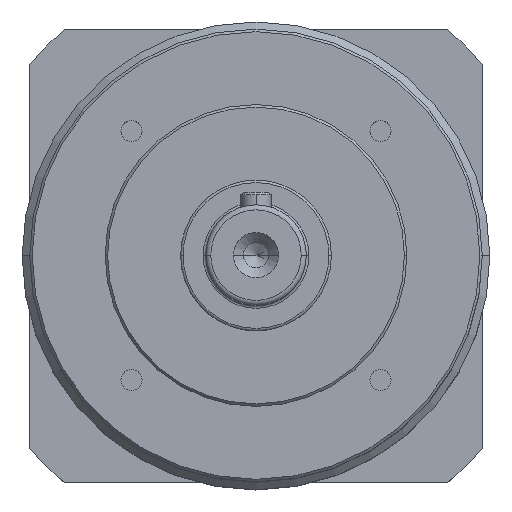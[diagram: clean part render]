
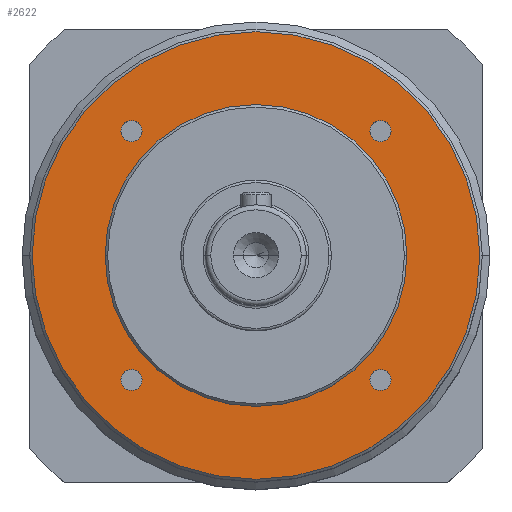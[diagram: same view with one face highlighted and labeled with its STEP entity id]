
A CAD part, top view. The second image highlights one B-rep face of the part: STEP entity #2622.
In plain terms, the highlighted planar face has unit normal (0, 0, 1).
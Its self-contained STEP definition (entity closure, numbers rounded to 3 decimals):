
#16 = EDGE_CURVE ( 'NONE', #438, #1082, #2848, .T. ) ;
#22 = VERTEX_POINT ( 'NONE', #2194 ) ;
#51 = CARTESIAN_POINT ( 'NONE',  ( -26.849, -24.749, 24.5 ) ) ;
#72 = CIRCLE ( 'NONE', #2682, 2.1 ) ;
#99 = AXIS2_PLACEMENT_3D ( 'NONE', #2843, #426, #485 ) ;
#131 = DIRECTION ( 'NONE',  ( 1., 0., 0. ) ) ;
#145 = DIRECTION ( 'NONE',  ( 0., 0., 1. ) ) ;
#157 = CARTESIAN_POINT ( 'NONE',  ( -22.649, -24.749, 24.5 ) ) ;
#179 = AXIS2_PLACEMENT_3D ( 'NONE', #1110, #858, #1069 ) ;
#207 = AXIS2_PLACEMENT_3D ( 'NONE', #915, #3078, #2099 ) ;
#227 = VERTEX_POINT ( 'NONE', #334 ) ;
#242 = CIRCLE ( 'NONE', #2226, 2.1 ) ;
#255 = EDGE_LOOP ( 'NONE', ( #1385, #2098 ) ) ;
#257 = EDGE_CURVE ( 'NONE', #1700, #1452, #3105, .T. ) ;
#273 = FACE_BOUND ( 'NONE', #570, .T. ) ;
#276 = CARTESIAN_POINT ( 'NONE',  ( 0., 0., 24.5 ) ) ;
#320 = EDGE_CURVE ( 'NONE', #587, #2873, #1015, .T. ) ;
#327 = DIRECTION ( 'NONE',  ( 1., 0., 0. ) ) ;
#334 = CARTESIAN_POINT ( 'NONE',  ( -22.649, 24.749, 24.5 ) ) ;
#387 = DIRECTION ( 'NONE',  ( 0., 0., 1. ) ) ;
#401 = EDGE_LOOP ( 'NONE', ( #2351, #2342 ) ) ;
#426 = DIRECTION ( 'NONE',  ( 0., 0., 1. ) ) ;
#438 = VERTEX_POINT ( 'NONE', #674 ) ;
#485 = DIRECTION ( 'NONE',  ( 1., 0., 0. ) ) ;
#521 = DIRECTION ( 'NONE',  ( 0., 0., 1. ) ) ;
#570 = EDGE_LOOP ( 'NONE', ( #1926, #1791 ) ) ;
#571 = AXIS2_PLACEMENT_3D ( 'NONE', #966, #1450, #730 ) ;
#574 = CARTESIAN_POINT ( 'NONE',  ( 24.749, 24.749, 24.5 ) ) ;
#587 = VERTEX_POINT ( 'NONE', #2730 ) ;
#600 = EDGE_LOOP ( 'NONE', ( #817, #2801 ) ) ;
#674 = CARTESIAN_POINT ( 'NONE',  ( 44.5, 0., 24.5 ) ) ;
#721 = DIRECTION ( 'NONE',  ( 0., 0., 1. ) ) ;
#730 = DIRECTION ( 'NONE',  ( 1., 0., 0. ) ) ;
#743 = CIRCLE ( 'NONE', #179, 2.1 ) ;
#745 = DIRECTION ( 'NONE',  ( 0., 0., 1. ) ) ;
#817 = ORIENTED_EDGE ( 'NONE', *, *, #2389, .F. ) ;
#838 = ORIENTED_EDGE ( 'NONE', *, *, #1584, .F. ) ;
#840 = FACE_BOUND ( 'NONE', #2681, .T. ) ;
#845 = DIRECTION ( 'NONE',  ( 0., 0., 1. ) ) ;
#858 = DIRECTION ( 'NONE',  ( 0., 0., 1. ) ) ;
#861 = AXIS2_PLACEMENT_3D ( 'NONE', #1856, #3068, #1604 ) ;
#877 = DIRECTION ( 'NONE',  ( 1., 0., 0. ) ) ;
#915 = CARTESIAN_POINT ( 'NONE',  ( 0., 0., 24.5 ) ) ;
#917 = DIRECTION ( 'NONE',  ( 0., 0., 1. ) ) ;
#962 = AXIS2_PLACEMENT_3D ( 'NONE', #2184, #721, #2430 ) ;
#966 = CARTESIAN_POINT ( 'NONE',  ( 0., 0., 24.5 ) ) ;
#988 = FACE_BOUND ( 'NONE', #600, .T. ) ;
#1015 = CIRCLE ( 'NONE', #207, 30. ) ;
#1056 = CARTESIAN_POINT ( 'NONE',  ( 22.649, 24.749, 24.5 ) ) ;
#1069 = DIRECTION ( 'NONE',  ( 1., 0., 0. ) ) ;
#1076 = EDGE_LOOP ( 'NONE', ( #2306, #838 ) ) ;
#1082 = VERTEX_POINT ( 'NONE', #2608 ) ;
#1094 = CARTESIAN_POINT ( 'NONE',  ( 26.849, 24.749, 24.5 ) ) ;
#1110 = CARTESIAN_POINT ( 'NONE',  ( 24.749, -24.749, 24.5 ) ) ;
#1163 = VERTEX_POINT ( 'NONE', #157 ) ;
#1184 = FACE_OUTER_BOUND ( 'NONE', #401, .T. ) ;
#1274 = EDGE_CURVE ( 'NONE', #2873, #587, #2507, .T. ) ;
#1321 = CARTESIAN_POINT ( 'NONE',  ( -30., 0., 24.5 ) ) ;
#1357 = EDGE_CURVE ( 'NONE', #2889, #2924, #2354, .T. ) ;
#1385 = ORIENTED_EDGE ( 'NONE', *, *, #2641, .F. ) ;
#1443 = ORIENTED_EDGE ( 'NONE', *, *, #320, .F. ) ;
#1450 = DIRECTION ( 'NONE',  ( 0., 0., 1. ) ) ;
#1452 = VERTEX_POINT ( 'NONE', #2004 ) ;
#1476 = EDGE_CURVE ( 'NONE', #1452, #1700, #743, .T. ) ;
#1518 = AXIS2_PLACEMENT_3D ( 'NONE', #2552, #845, #131 ) ;
#1567 = DIRECTION ( 'NONE',  ( 0., 0., 1. ) ) ;
#1584 = EDGE_CURVE ( 'NONE', #22, #227, #72, .T. ) ;
#1604 = DIRECTION ( 'NONE',  ( 1., 0., 0. ) ) ;
#1700 = VERTEX_POINT ( 'NONE', #1932 ) ;
#1726 = CIRCLE ( 'NONE', #861, 44.5 ) ;
#1743 = DIRECTION ( 'NONE',  ( 1., 0., 0. ) ) ;
#1791 = ORIENTED_EDGE ( 'NONE', *, *, #1476, .F. ) ;
#1821 = AXIS2_PLACEMENT_3D ( 'NONE', #276, #745, #1743 ) ;
#1856 = CARTESIAN_POINT ( 'NONE',  ( 0., 0., 24.5 ) ) ;
#1926 = ORIENTED_EDGE ( 'NONE', *, *, #257, .F. ) ;
#1932 = CARTESIAN_POINT ( 'NONE',  ( 26.849, -24.749, 24.5 ) ) ;
#1993 = CIRCLE ( 'NONE', #2877, 2.1 ) ;
#2004 = CARTESIAN_POINT ( 'NONE',  ( 22.649, -24.749, 24.5 ) ) ;
#2042 = ORIENTED_EDGE ( 'NONE', *, *, #1274, .F. ) ;
#2073 = CARTESIAN_POINT ( 'NONE',  ( 24.749, -24.749, 24.5 ) ) ;
#2076 = EDGE_CURVE ( 'NONE', #1082, #438, #1726, .T. ) ;
#2098 = ORIENTED_EDGE ( 'NONE', *, *, #2457, .F. ) ;
#2099 = DIRECTION ( 'NONE',  ( 1., 0., 0. ) ) ;
#2184 = CARTESIAN_POINT ( 'NONE',  ( 0., 0., 24.5 ) ) ;
#2194 = CARTESIAN_POINT ( 'NONE',  ( -26.849, 24.749, 24.5 ) ) ;
#2226 = AXIS2_PLACEMENT_3D ( 'NONE', #574, #1567, #2294 ) ;
#2229 = CARTESIAN_POINT ( 'NONE',  ( 24.749, 24.749, 24.5 ) ) ;
#2294 = DIRECTION ( 'NONE',  ( 1., 0., 0. ) ) ;
#2306 = ORIENTED_EDGE ( 'NONE', *, *, #2432, .F. ) ;
#2323 = DIRECTION ( 'NONE',  ( 1., 0., 0. ) ) ;
#2342 = ORIENTED_EDGE ( 'NONE', *, *, #16, .T. ) ;
#2351 = ORIENTED_EDGE ( 'NONE', *, *, #2076, .T. ) ;
#2354 = CIRCLE ( 'NONE', #2741, 2.1 ) ;
#2389 = EDGE_CURVE ( 'NONE', #2924, #2889, #242, .T. ) ;
#2430 = DIRECTION ( 'NONE',  ( 1., 0., 0. ) ) ;
#2432 = EDGE_CURVE ( 'NONE', #227, #22, #2482, .T. ) ;
#2457 = EDGE_CURVE ( 'NONE', #2831, #1163, #1993, .T. ) ;
#2482 = CIRCLE ( 'NONE', #1518, 2.1 ) ;
#2507 = CIRCLE ( 'NONE', #1821, 30. ) ;
#2544 = AXIS2_PLACEMENT_3D ( 'NONE', #2073, #145, #2323 ) ;
#2552 = CARTESIAN_POINT ( 'NONE',  ( -24.749, 24.749, 24.5 ) ) ;
#2575 = CARTESIAN_POINT ( 'NONE',  ( -24.749, -24.749, 24.5 ) ) ;
#2608 = CARTESIAN_POINT ( 'NONE',  ( -44.5, 0., 24.5 ) ) ;
#2615 = CARTESIAN_POINT ( 'NONE',  ( -24.749, 24.749, 24.5 ) ) ;
#2622 = ADVANCED_FACE ( 'NONE', ( #2637, #2711, #273, #988, #840, #1184 ), #3079, .T. ) ;
#2637 = FACE_BOUND ( 'NONE', #1076, .T. ) ;
#2641 = EDGE_CURVE ( 'NONE', #1163, #2831, #2927, .T. ) ;
#2681 = EDGE_LOOP ( 'NONE', ( #2042, #1443 ) ) ;
#2682 = AXIS2_PLACEMENT_3D ( 'NONE', #2615, #917, #877 ) ;
#2711 = FACE_BOUND ( 'NONE', #255, .T. ) ;
#2730 = CARTESIAN_POINT ( 'NONE',  ( 30., 0., 24.5 ) ) ;
#2741 = AXIS2_PLACEMENT_3D ( 'NONE', #2229, #521, #327 ) ;
#2801 = ORIENTED_EDGE ( 'NONE', *, *, #1357, .F. ) ;
#2831 = VERTEX_POINT ( 'NONE', #51 ) ;
#2843 = CARTESIAN_POINT ( 'NONE',  ( -24.749, -24.749, 24.5 ) ) ;
#2848 = CIRCLE ( 'NONE', #962, 44.5 ) ;
#2873 = VERTEX_POINT ( 'NONE', #1321 ) ;
#2877 = AXIS2_PLACEMENT_3D ( 'NONE', #2575, #387, #3063 ) ;
#2889 = VERTEX_POINT ( 'NONE', #1056 ) ;
#2924 = VERTEX_POINT ( 'NONE', #1094 ) ;
#2927 = CIRCLE ( 'NONE', #99, 2.1 ) ;
#3063 = DIRECTION ( 'NONE',  ( 1., 0., 0. ) ) ;
#3068 = DIRECTION ( 'NONE',  ( 0., 0., 1. ) ) ;
#3078 = DIRECTION ( 'NONE',  ( 0., 0., 1. ) ) ;
#3079 = PLANE ( 'NONE',  #571 ) ;
#3105 = CIRCLE ( 'NONE', #2544, 2.1 ) ;
